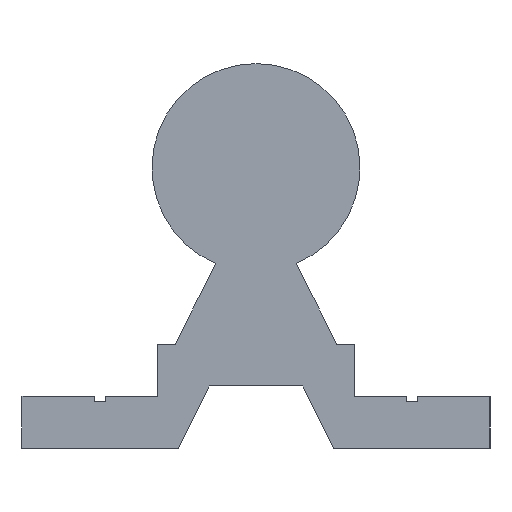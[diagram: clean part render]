
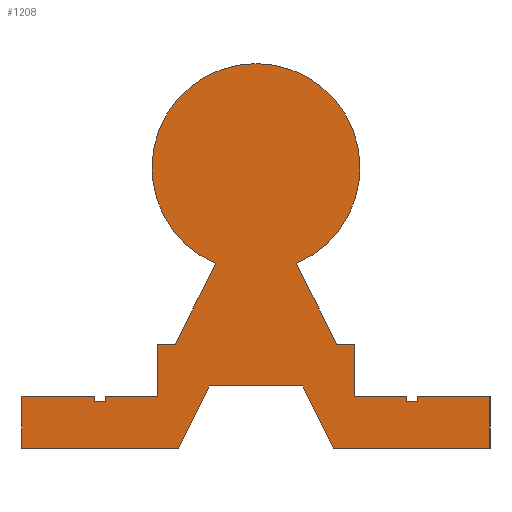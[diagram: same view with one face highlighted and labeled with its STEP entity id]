
A CAD part, left-side view. The second image highlights one B-rep face of the part: STEP entity #1208.
In plain terms, the highlighted planar face has unit normal (-1, 0, 0).
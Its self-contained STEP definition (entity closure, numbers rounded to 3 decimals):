
#45=LINE('',#1870,#145);
#49=LINE('',#1899,#149);
#54=LINE('',#1908,#154);
#57=LINE('',#1927,#157);
#62=LINE('',#1936,#162);
#65=LINE('',#1950,#165);
#82=LINE('',#1997,#182);
#86=LINE('',#2005,#186);
#89=LINE('',#2011,#189);
#92=LINE('',#2017,#192);
#95=LINE('',#2023,#195);
#98=LINE('',#2028,#198);
#100=LINE('',#2031,#200);
#101=LINE('',#2034,#201);
#104=LINE('',#2040,#204);
#107=LINE('',#2046,#207);
#110=LINE('',#2053,#210);
#114=LINE('',#2061,#214);
#117=LINE('',#2067,#217);
#120=LINE('',#2072,#220);
#122=LINE('',#2075,#222);
#123=LINE('',#2078,#223);
#126=LINE('',#2083,#226);
#145=VECTOR('',#1482,10.);
#149=VECTOR('',#1506,10.);
#154=VECTOR('',#1513,10.);
#157=VECTOR('',#1524,10.);
#162=VECTOR('',#1531,10.);
#165=VECTOR('',#1542,10.);
#182=VECTOR('',#1597,10.);
#186=VECTOR('',#1603,10.);
#189=VECTOR('',#1608,10.);
#192=VECTOR('',#1613,10.);
#195=VECTOR('',#1618,10.);
#198=VECTOR('',#1623,10.);
#200=VECTOR('',#1627,10.);
#201=VECTOR('',#1630,10.);
#204=VECTOR('',#1635,10.);
#207=VECTOR('',#1640,10.);
#210=VECTOR('',#1645,10.);
#214=VECTOR('',#1651,10.);
#217=VECTOR('',#1656,10.);
#220=VECTOR('',#1661,10.);
#222=VECTOR('',#1665,10.);
#223=VECTOR('',#1668,10.);
#226=VECTOR('',#1673,10.);
#270=PLANE('',#1346);
#332=FACE_OUTER_BOUND('',#400,.T.);
#400=EDGE_LOOP('',(#1111,#1112,#1113,#1114,#1115,#1116,#1117,#1118,#1119,
#1120,#1121,#1122,#1123,#1124,#1125,#1126,#1127,#1128,#1129,#1130,#1131,
#1132,#1133,#1134));
#455=CIRCLE('',#1343,10.);
#531=VERTEX_POINT('',#1867);
#532=VERTEX_POINT('',#1869);
#540=VERTEX_POINT('',#1896);
#541=VERTEX_POINT('',#1898);
#544=VERTEX_POINT('',#1906);
#549=VERTEX_POINT('',#1924);
#550=VERTEX_POINT('',#1926);
#553=VERTEX_POINT('',#1934);
#556=VERTEX_POINT('',#1947);
#557=VERTEX_POINT('',#1949);
#567=VERTEX_POINT('',#1995);
#568=VERTEX_POINT('',#1996);
#571=VERTEX_POINT('',#2004);
#573=VERTEX_POINT('',#2010);
#575=VERTEX_POINT('',#2016);
#577=VERTEX_POINT('',#2022);
#579=VERTEX_POINT('',#2033);
#581=VERTEX_POINT('',#2039);
#583=VERTEX_POINT('',#2045);
#585=VERTEX_POINT('',#2051);
#586=VERTEX_POINT('',#2052);
#589=VERTEX_POINT('',#2060);
#591=VERTEX_POINT('',#2066);
#593=VERTEX_POINT('',#2077);
#669=EDGE_CURVE('',#531,#532,#45,.T.);
#682=EDGE_CURVE('',#540,#541,#49,.T.);
#687=EDGE_CURVE('',#544,#540,#54,.T.);
#694=EDGE_CURVE('',#549,#550,#57,.T.);
#699=EDGE_CURVE('',#553,#549,#62,.T.);
#705=EDGE_CURVE('',#556,#557,#65,.T.);
#727=EDGE_CURVE('',#567,#568,#82,.T.);
#731=EDGE_CURVE('',#571,#567,#86,.T.);
#734=EDGE_CURVE('',#573,#571,#89,.T.);
#737=EDGE_CURVE('',#575,#573,#92,.T.);
#740=EDGE_CURVE('',#577,#575,#95,.T.);
#743=EDGE_CURVE('',#557,#577,#98,.T.);
#745=EDGE_CURVE('',#550,#556,#100,.T.);
#746=EDGE_CURVE('',#579,#553,#101,.T.);
#749=EDGE_CURVE('',#581,#579,#104,.T.);
#752=EDGE_CURVE('',#583,#581,#107,.T.);
#755=EDGE_CURVE('',#585,#586,#110,.T.);
#759=EDGE_CURVE('',#589,#585,#114,.T.);
#762=EDGE_CURVE('',#591,#589,#117,.T.);
#765=EDGE_CURVE('',#532,#591,#120,.T.);
#767=EDGE_CURVE('',#541,#531,#122,.T.);
#768=EDGE_CURVE('',#593,#544,#123,.T.);
#771=EDGE_CURVE('',#568,#593,#126,.T.);
#773=EDGE_CURVE('',#586,#583,#455,.T.);
#1111=ORIENTED_EDGE('',*,*,#773,.F.);
#1112=ORIENTED_EDGE('',*,*,#755,.F.);
#1113=ORIENTED_EDGE('',*,*,#759,.F.);
#1114=ORIENTED_EDGE('',*,*,#762,.F.);
#1115=ORIENTED_EDGE('',*,*,#765,.F.);
#1116=ORIENTED_EDGE('',*,*,#669,.F.);
#1117=ORIENTED_EDGE('',*,*,#767,.F.);
#1118=ORIENTED_EDGE('',*,*,#682,.F.);
#1119=ORIENTED_EDGE('',*,*,#687,.F.);
#1120=ORIENTED_EDGE('',*,*,#768,.F.);
#1121=ORIENTED_EDGE('',*,*,#771,.F.);
#1122=ORIENTED_EDGE('',*,*,#727,.F.);
#1123=ORIENTED_EDGE('',*,*,#731,.F.);
#1124=ORIENTED_EDGE('',*,*,#734,.F.);
#1125=ORIENTED_EDGE('',*,*,#737,.F.);
#1126=ORIENTED_EDGE('',*,*,#740,.F.);
#1127=ORIENTED_EDGE('',*,*,#743,.F.);
#1128=ORIENTED_EDGE('',*,*,#705,.F.);
#1129=ORIENTED_EDGE('',*,*,#745,.F.);
#1130=ORIENTED_EDGE('',*,*,#694,.F.);
#1131=ORIENTED_EDGE('',*,*,#699,.F.);
#1132=ORIENTED_EDGE('',*,*,#746,.F.);
#1133=ORIENTED_EDGE('',*,*,#749,.F.);
#1134=ORIENTED_EDGE('',*,*,#752,.F.);
#1208=ADVANCED_FACE('',(#332),#270,.F.);
#1343=AXIS2_PLACEMENT_3D('',#2086,#1677,#1678);
#1346=AXIS2_PLACEMENT_3D('',#2089,#1683,#1684);
#1482=DIRECTION('',(0.,0.,1.));
#1506=DIRECTION('',(0.,0.,-1.));
#1513=DIRECTION('',(0.,-1.,0.));
#1524=DIRECTION('',(0.,0.,-1.));
#1531=DIRECTION('',(0.,-1.,0.));
#1542=DIRECTION('',(0.,0.,1.));
#1597=DIRECTION('',(0.,0.447,-0.894));
#1603=DIRECTION('',(0.,1.,0.));
#1608=DIRECTION('',(0.,0.447,0.894));
#1613=DIRECTION('',(0.,1.,0.));
#1618=DIRECTION('',(0.,0.,-1.));
#1623=DIRECTION('',(0.,-1.,0.));
#1627=DIRECTION('',(0.,-1.,0.));
#1630=DIRECTION('',(0.,0.,-1.));
#1635=DIRECTION('',(0.,-1.,0.));
#1640=DIRECTION('',(0.,-0.447,-0.894));
#1645=DIRECTION('',(0.,-0.447,0.894));
#1651=DIRECTION('',(0.,-1.,0.));
#1656=DIRECTION('',(0.,0.,1.));
#1661=DIRECTION('',(0.,-1.,0.));
#1665=DIRECTION('',(0.,-1.,0.));
#1668=DIRECTION('',(0.,0.,1.));
#1673=DIRECTION('',(0.,1.,0.));
#1677=DIRECTION('center_axis',(1.,0.,0.));
#1678=DIRECTION('ref_axis',(0.,1.,0.));
#1683=DIRECTION('center_axis',(1.,0.,0.));
#1684=DIRECTION('ref_axis',(0.,0.,-1.));
#1867=CARTESIAN_POINT('',(0.,14.5,4.5));
#1869=CARTESIAN_POINT('',(0.,14.5,5.));
#1870=CARTESIAN_POINT('',(0.,14.5,4.5));
#1896=CARTESIAN_POINT('',(0.,15.5,5.));
#1898=CARTESIAN_POINT('',(0.,15.5,4.5));
#1899=CARTESIAN_POINT('',(0.,15.5,5.));
#1906=CARTESIAN_POINT('',(0.,22.5,5.));
#1908=CARTESIAN_POINT('',(0.,22.5,5.));
#1924=CARTESIAN_POINT('',(0.,-14.5,5.));
#1926=CARTESIAN_POINT('',(0.,-14.5,4.5));
#1927=CARTESIAN_POINT('',(0.,-14.5,5.));
#1934=CARTESIAN_POINT('',(0.,-9.5,5.));
#1936=CARTESIAN_POINT('',(0.,-9.5,5.));
#1947=CARTESIAN_POINT('',(0.,-15.5,4.5));
#1949=CARTESIAN_POINT('',(0.,-15.5,5.));
#1950=CARTESIAN_POINT('',(0.,-15.5,4.5));
#1995=CARTESIAN_POINT('',(0.,4.5,6.));
#1996=CARTESIAN_POINT('',(0.,7.5,0.));
#1997=CARTESIAN_POINT('',(0.,4.5,6.));
#2004=CARTESIAN_POINT('',(0.,-4.5,6.));
#2005=CARTESIAN_POINT('',(0.,-4.5,6.));
#2010=CARTESIAN_POINT('',(0.,-7.5,0.));
#2011=CARTESIAN_POINT('',(0.,-7.5,0.));
#2016=CARTESIAN_POINT('',(0.,-22.5,0.));
#2017=CARTESIAN_POINT('',(0.,-22.5,0.));
#2022=CARTESIAN_POINT('',(0.,-22.5,5.));
#2023=CARTESIAN_POINT('',(0.,-22.5,5.));
#2028=CARTESIAN_POINT('',(0.,-15.5,5.));
#2031=CARTESIAN_POINT('',(0.,-14.5,4.5));
#2033=CARTESIAN_POINT('',(0.,-9.5,10.));
#2034=CARTESIAN_POINT('',(0.,-9.5,10.));
#2039=CARTESIAN_POINT('',(0.,-7.766,10.));
#2040=CARTESIAN_POINT('',(0.,-7.766,10.));
#2045=CARTESIAN_POINT('',(0.,-3.875,17.781));
#2046=CARTESIAN_POINT('',(0.,-3.875,17.781));
#2051=CARTESIAN_POINT('',(0.,7.766,10.));
#2052=CARTESIAN_POINT('',(0.,3.875,17.781));
#2053=CARTESIAN_POINT('',(0.,7.766,10.));
#2060=CARTESIAN_POINT('',(0.,9.5,10.));
#2061=CARTESIAN_POINT('',(0.,9.5,10.));
#2066=CARTESIAN_POINT('',(0.,9.5,5.));
#2067=CARTESIAN_POINT('',(0.,9.5,5.));
#2072=CARTESIAN_POINT('',(0.,14.5,5.));
#2075=CARTESIAN_POINT('',(0.,15.5,4.5));
#2077=CARTESIAN_POINT('',(0.,22.5,0.));
#2078=CARTESIAN_POINT('',(0.,22.5,0.));
#2083=CARTESIAN_POINT('',(0.,7.5,0.));
#2086=CARTESIAN_POINT('Origin',(0.,0.,27.));
#2089=CARTESIAN_POINT('Origin',(0.,0.,27.));
